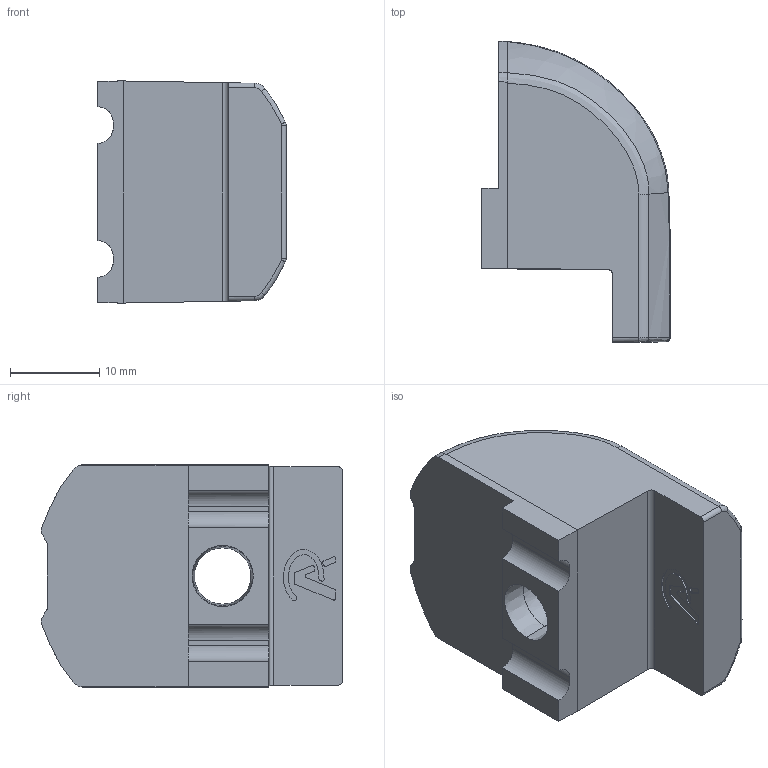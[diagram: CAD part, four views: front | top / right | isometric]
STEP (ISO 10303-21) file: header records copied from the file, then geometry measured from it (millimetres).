
FILE_DESCRIPTION (( 'STEP AP214' ), '1' );
FILE_NAME ('013.100.067.STEP', '2023-01-13T13:54:49', ( '' ), ( '' ), 'SwSTEP 2.0', 'SolidWorks 2021', '' );
FILE_SCHEMA (( 'AUTOMOTIVE_DESIGN' ));
Length unit declared in the file: millimetre
Products named in the file (1): 013.100.067
Bounding box: 21.16 x 33.79 x 24.9 mm (x, y, z)
Volume: 9933.5 mm3; surface area: 4795.9 mm2
Topology: 2 solids, 2 shells, 114 faces, 302 edges, 196 vertices
Faces by surface type: plane 43, bspline 41, cylinder 26, cone 4
Entity records: 6175 total; most frequent: CARTESIAN_POINT 3617, ORIENTED_EDGE 604, DIRECTION 397, EDGE_CURVE 302, VERTEX_POINT 196, LINE 141, VECTOR 141, AXIS2_PLACEMENT_3D 128
